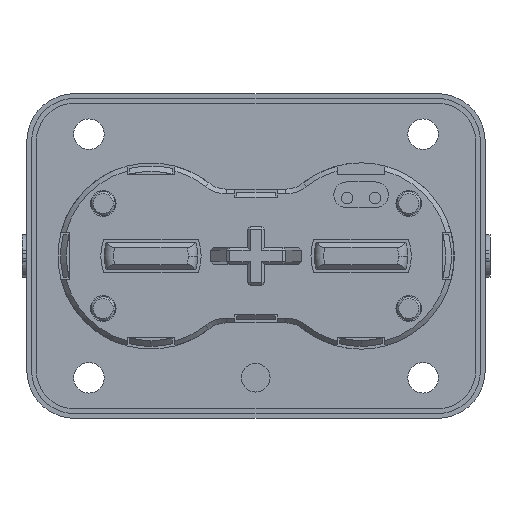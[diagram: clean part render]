
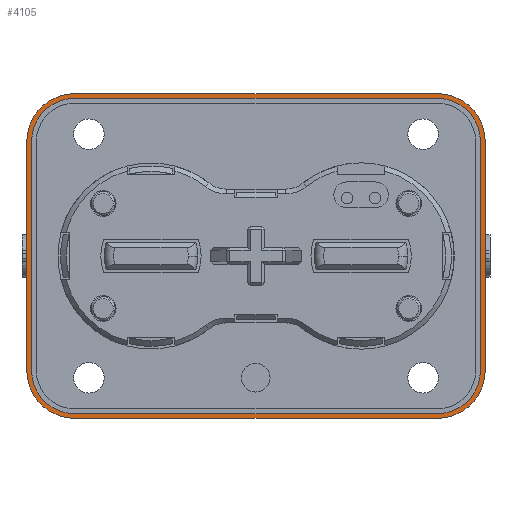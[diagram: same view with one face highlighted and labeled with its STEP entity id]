
A CAD part, front view. The second image highlights one B-rep face of the part: STEP entity #4105.
In plain terms, the highlighted planar face has unit normal (0, -1, 0).
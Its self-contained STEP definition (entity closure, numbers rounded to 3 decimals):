
#51 = CARTESIAN_POINT ( 'NONE',  ( 12.5, 0., -12. ) ) ;
#93 = DIRECTION ( 'NONE',  ( 0., 0., -1. ) ) ;
#103 = DIRECTION ( 'NONE',  ( 0., 0., 1. ) ) ;
#162 = DIRECTION ( 'NONE',  ( 0., -1., 0. ) ) ;
#220 = LINE ( 'NONE', #51, #1147 ) ;
#426 = DIRECTION ( 'NONE',  ( 0., 0., -1. ) ) ;
#516 = VECTOR ( 'NONE', #13679, 1000. ) ;
#559 = LINE ( 'NONE', #25185, #15868 ) ;
#834 = CARTESIAN_POINT ( 'NONE',  ( 12.5, 0., 12. ) ) ;
#927 = EDGE_CURVE ( 'NONE', #9052, #10738, #10030, .T. ) ;
#1054 = ORIENTED_EDGE ( 'NONE', *, *, #7130, .F. ) ;
#1079 = DIRECTION ( 'NONE',  ( 0., 0., 1. ) ) ;
#1147 = VECTOR ( 'NONE', #17933, 1000. ) ;
#1212 = CARTESIAN_POINT ( 'NONE',  ( -35., 0., -17. ) ) ;
#1216 = CARTESIAN_POINT ( 'NONE',  ( -35., 0., 12. ) ) ;
#1244 = AXIS2_PLACEMENT_3D ( 'NONE', #24752, #18525, #22574 ) ;
#1547 = DIRECTION ( 'NONE',  ( 0., 0., 1. ) ) ;
#1854 = EDGE_CURVE ( 'NONE', #17118, #22585, #21584, .T. ) ;
#1932 = DIRECTION ( 'NONE',  ( 0., -1., 0. ) ) ;
#2004 = CARTESIAN_POINT ( 'NONE',  ( -30., 0., -17. ) ) ;
#2285 = AXIS2_PLACEMENT_3D ( 'NONE', #10943, #17406, #1547 ) ;
#2610 = CIRCLE ( 'NONE', #16929, 4.5 ) ;
#2650 = CARTESIAN_POINT ( 'NONE',  ( -34.5, 0., -12. ) ) ;
#3096 = VERTEX_POINT ( 'NONE', #17275 ) ;
#3498 = EDGE_CURVE ( 'NONE', #7281, #7196, #5424, .T. ) ;
#3663 = ORIENTED_EDGE ( 'NONE', *, *, #8003, .T. ) ;
#3820 = CARTESIAN_POINT ( 'NONE',  ( -35., 0., 17. ) ) ;
#4023 = DIRECTION ( 'NONE',  ( 0., 0., -1. ) ) ;
#4105 = ADVANCED_FACE ( 'NONE', ( #14116, #18800 ), #10501, .F. ) ;
#5173 = ORIENTED_EDGE ( 'NONE', *, *, #18621, .T. ) ;
#5424 = CIRCLE ( 'NONE', #13415, 4.5 ) ;
#5702 = DIRECTION ( 'NONE',  ( 0., 0., -1. ) ) ;
#5999 = VERTEX_POINT ( 'NONE', #9046 ) ;
#6338 = ORIENTED_EDGE ( 'NONE', *, *, #927, .T. ) ;
#6504 = LINE ( 'NONE', #15467, #11507 ) ;
#6536 = CARTESIAN_POINT ( 'NONE',  ( 8., 0., -12. ) ) ;
#6580 = CARTESIAN_POINT ( 'NONE',  ( -22., 0., 0. ) ) ;
#6691 = AXIS2_PLACEMENT_3D ( 'NONE', #6536, #8266, #426 ) ;
#6818 = EDGE_CURVE ( 'NONE', #10067, #14756, #24629, .T. ) ;
#6819 = ORIENTED_EDGE ( 'NONE', *, *, #6818, .F. ) ;
#7000 = AXIS2_PLACEMENT_3D ( 'NONE', #25301, #13473, #9454 ) ;
#7049 = VERTEX_POINT ( 'NONE', #2650 ) ;
#7130 = EDGE_CURVE ( 'NONE', #9052, #12523, #559, .T. ) ;
#7196 = VERTEX_POINT ( 'NONE', #20443 ) ;
#7271 = CARTESIAN_POINT ( 'NONE',  ( -30., 0., -12. ) ) ;
#7281 = VERTEX_POINT ( 'NONE', #20800 ) ;
#7304 = LINE ( 'NONE', #19574, #22634 ) ;
#7384 = VECTOR ( 'NONE', #21819, 1000. ) ;
#7661 = EDGE_CURVE ( 'NONE', #22585, #10067, #220, .T. ) ;
#7698 = DIRECTION ( 'NONE',  ( -1., 0., 0. ) ) ;
#7802 = CARTESIAN_POINT ( 'NONE',  ( 8., 0., 12. ) ) ;
#8003 = EDGE_CURVE ( 'NONE', #15986, #14458, #10492, .T. ) ;
#8266 = DIRECTION ( 'NONE',  ( 0., -1., 0. ) ) ;
#8669 = DIRECTION ( 'NONE',  ( 0., 1., 0. ) ) ;
#8871 = CARTESIAN_POINT ( 'NONE',  ( -35., 0., -12. ) ) ;
#9046 = CARTESIAN_POINT ( 'NONE',  ( 13., 0., 12. ) ) ;
#9052 = VERTEX_POINT ( 'NONE', #8871 ) ;
#9125 = EDGE_LOOP ( 'NONE', ( #5173, #18592, #19142, #1054, #6338, #17475, #3663, #10913 ) ) ;
#9129 = EDGE_CURVE ( 'NONE', #15986, #10738, #14169, .T. ) ;
#9244 = AXIS2_PLACEMENT_3D ( 'NONE', #6580, #8669, #20653 ) ;
#9420 = CARTESIAN_POINT ( 'NONE',  ( 8., 0., 12. ) ) ;
#9454 = DIRECTION ( 'NONE',  ( 0., 0., 1. ) ) ;
#9514 = CARTESIAN_POINT ( 'NONE',  ( 8., 0., -16.5 ) ) ;
#9676 = DIRECTION ( 'NONE',  ( 0., 0., -1. ) ) ;
#9826 = EDGE_CURVE ( 'NONE', #7049, #15465, #2610, .T. ) ;
#10030 = CIRCLE ( 'NONE', #7000, 5. ) ;
#10040 = EDGE_CURVE ( 'NONE', #3096, #12523, #15873, .T. ) ;
#10055 = DIRECTION ( 'NONE',  ( 0., -1., 0. ) ) ;
#10067 = VERTEX_POINT ( 'NONE', #834 ) ;
#10492 = CIRCLE ( 'NONE', #2285, 5. ) ;
#10501 = PLANE ( 'NONE',  #9244 ) ;
#10738 = VERTEX_POINT ( 'NONE', #2004 ) ;
#10913 = ORIENTED_EDGE ( 'NONE', *, *, #16445, .F. ) ;
#10943 = CARTESIAN_POINT ( 'NONE',  ( 8., 0., -12. ) ) ;
#11204 = EDGE_CURVE ( 'NONE', #15465, #17118, #12037, .T. ) ;
#11507 = VECTOR ( 'NONE', #9676, 1000. ) ;
#12037 = LINE ( 'NONE', #17769, #516 ) ;
#12137 = DIRECTION ( 'NONE',  ( 0., 0., -1. ) ) ;
#12386 = ORIENTED_EDGE ( 'NONE', *, *, #1854, .F. ) ;
#12523 = VERTEX_POINT ( 'NONE', #1216 ) ;
#12928 = VECTOR ( 'NONE', #15073, 1000. ) ;
#12997 = ORIENTED_EDGE ( 'NONE', *, *, #19808, .F. ) ;
#13415 = AXIS2_PLACEMENT_3D ( 'NONE', #19801, #162, #4023 ) ;
#13473 = DIRECTION ( 'NONE',  ( 0., -1., 0. ) ) ;
#13679 = DIRECTION ( 'NONE',  ( 1., 0., 0. ) ) ;
#13733 = CARTESIAN_POINT ( 'NONE',  ( 8., 0., -17. ) ) ;
#13749 = ORIENTED_EDGE ( 'NONE', *, *, #9826, .F. ) ;
#14116 = FACE_OUTER_BOUND ( 'NONE', #9125, .T. ) ;
#14169 = LINE ( 'NONE', #1212, #12928 ) ;
#14458 = VERTEX_POINT ( 'NONE', #20499 ) ;
#14756 = VERTEX_POINT ( 'NONE', #15580 ) ;
#15073 = DIRECTION ( 'NONE',  ( -1., 0., 0. ) ) ;
#15150 = EDGE_CURVE ( 'NONE', #7196, #7049, #15626, .T. ) ;
#15302 = EDGE_LOOP ( 'NONE', ( #12386, #17207, #13749, #19766, #18586, #12997, #6819, #22998 ) ) ;
#15453 = VERTEX_POINT ( 'NONE', #17772 ) ;
#15465 = VERTEX_POINT ( 'NONE', #22081 ) ;
#15467 = CARTESIAN_POINT ( 'NONE',  ( 13., 0., -17. ) ) ;
#15580 = CARTESIAN_POINT ( 'NONE',  ( 8., 0., 16.5 ) ) ;
#15626 = LINE ( 'NONE', #22113, #18735 ) ;
#15868 = VECTOR ( 'NONE', #1079, 1000. ) ;
#15873 = CIRCLE ( 'NONE', #1244, 5. ) ;
#15986 = VERTEX_POINT ( 'NONE', #13733 ) ;
#16445 = EDGE_CURVE ( 'NONE', #5999, #14458, #6504, .T. ) ;
#16929 = AXIS2_PLACEMENT_3D ( 'NONE', #7271, #19672, #5702 ) ;
#17118 = VERTEX_POINT ( 'NONE', #9514 ) ;
#17207 = ORIENTED_EDGE ( 'NONE', *, *, #11204, .F. ) ;
#17275 = CARTESIAN_POINT ( 'NONE',  ( -30., 0., 17. ) ) ;
#17406 = DIRECTION ( 'NONE',  ( 0., -1., 0. ) ) ;
#17475 = ORIENTED_EDGE ( 'NONE', *, *, #9129, .F. ) ;
#17769 = CARTESIAN_POINT ( 'NONE',  ( -30., 0., -16.5 ) ) ;
#17772 = CARTESIAN_POINT ( 'NONE',  ( 8., 0., 17. ) ) ;
#17933 = DIRECTION ( 'NONE',  ( 0., 0., 1. ) ) ;
#18024 = EDGE_CURVE ( 'NONE', #3096, #15453, #25851, .T. ) ;
#18525 = DIRECTION ( 'NONE',  ( 0., -1., 0. ) ) ;
#18586 = ORIENTED_EDGE ( 'NONE', *, *, #3498, .F. ) ;
#18592 = ORIENTED_EDGE ( 'NONE', *, *, #18024, .F. ) ;
#18621 = EDGE_CURVE ( 'NONE', #5999, #15453, #19537, .T. ) ;
#18735 = VECTOR ( 'NONE', #93, 1000. ) ;
#18800 = FACE_BOUND ( 'NONE', #15302, .T. ) ;
#19142 = ORIENTED_EDGE ( 'NONE', *, *, #10040, .T. ) ;
#19537 = CIRCLE ( 'NONE', #20277, 5. ) ;
#19574 = CARTESIAN_POINT ( 'NONE',  ( 8., 0., 16.5 ) ) ;
#19672 = DIRECTION ( 'NONE',  ( 0., -1., 0. ) ) ;
#19766 = ORIENTED_EDGE ( 'NONE', *, *, #15150, .F. ) ;
#19801 = CARTESIAN_POINT ( 'NONE',  ( -30., 0., 12. ) ) ;
#19808 = EDGE_CURVE ( 'NONE', #14756, #7281, #7304, .T. ) ;
#20277 = AXIS2_PLACEMENT_3D ( 'NONE', #9420, #1932, #103 ) ;
#20443 = CARTESIAN_POINT ( 'NONE',  ( -34.5, 0., 12. ) ) ;
#20499 = CARTESIAN_POINT ( 'NONE',  ( 13., 0., -12. ) ) ;
#20653 = DIRECTION ( 'NONE',  ( 1., 0., 0. ) ) ;
#20800 = CARTESIAN_POINT ( 'NONE',  ( -30., 0., 16.5 ) ) ;
#21584 = CIRCLE ( 'NONE', #6691, 4.5 ) ;
#21819 = DIRECTION ( 'NONE',  ( 1., 0., 0. ) ) ;
#22081 = CARTESIAN_POINT ( 'NONE',  ( -30., 0., -16.5 ) ) ;
#22113 = CARTESIAN_POINT ( 'NONE',  ( -34.5, 0., 12. ) ) ;
#22574 = DIRECTION ( 'NONE',  ( 0., 0., 1. ) ) ;
#22585 = VERTEX_POINT ( 'NONE', #24693 ) ;
#22634 = VECTOR ( 'NONE', #7698, 1000. ) ;
#22998 = ORIENTED_EDGE ( 'NONE', *, *, #7661, .F. ) ;
#24629 = CIRCLE ( 'NONE', #25723, 4.5 ) ;
#24693 = CARTESIAN_POINT ( 'NONE',  ( 12.5, 0., -12. ) ) ;
#24752 = CARTESIAN_POINT ( 'NONE',  ( -30., 0., 12. ) ) ;
#25185 = CARTESIAN_POINT ( 'NONE',  ( -35., 0., -17. ) ) ;
#25301 = CARTESIAN_POINT ( 'NONE',  ( -30., 0., -12. ) ) ;
#25723 = AXIS2_PLACEMENT_3D ( 'NONE', #7802, #10055, #12137 ) ;
#25851 = LINE ( 'NONE', #3820, #7384 ) ;
